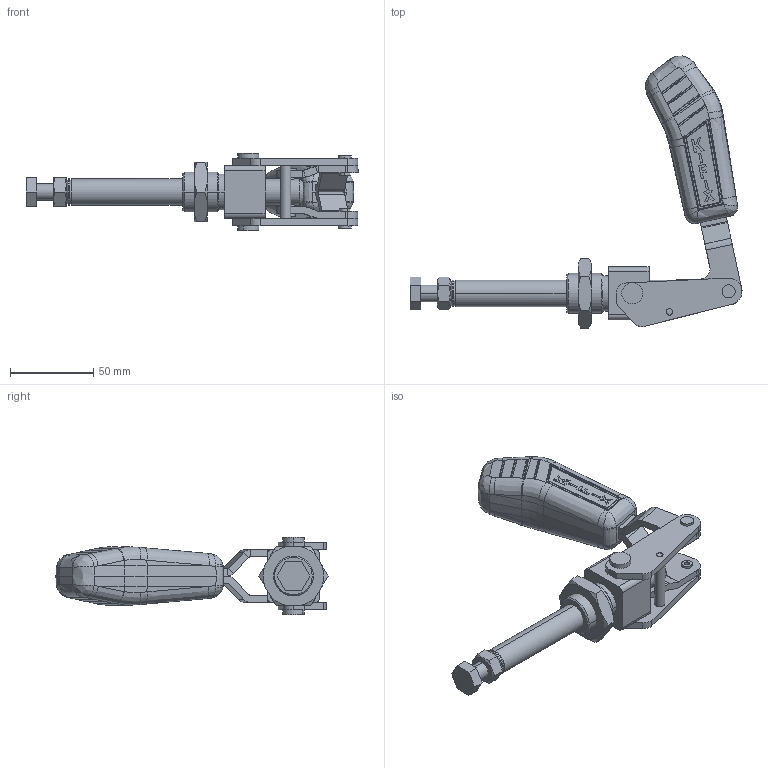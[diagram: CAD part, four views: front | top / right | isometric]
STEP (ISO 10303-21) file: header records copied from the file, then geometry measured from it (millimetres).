
FILE_DESCRIPTION (( 'STEP AP203' ), '1' );
FILE_NAME ('KF-035.STEP', '2014-08-26T18:10:13', ( 'Ricardo' ), ( '' ), 'SwSTEP 2.0', 'SolidWorks 2013', '' );
FILE_SCHEMA (( 'CONFIG_CONTROL_DESIGN' ));
Length unit declared in the file: millimetre
Products named in the file (15): 06.50034; 07.60002; 06.50021; 11.20006; 02.20004; 16.20061; 03.20034; 12.50021; 08.10037; 11.50003; 01.10075_Direita; PP-M10; 01.10075_Esquerda; KF-035; 16.20051
Assembly tree (17 placements, depth 3):
  KF-035
    02.20004
    03.20034
    08.10037  x2
    01.10075_Direita
    01.10075_Esquerda
    16.20051
    07.60002
    06.50034  x2
    06.50021
    11.20006
    16.20061  x2
    PP-M10
      12.50021
      11.50003
Bounding box: 199.37 x 163.4 x 46.25 mm (x, y, z)
Volume: 185318 mm3; surface area: 66321.4 mm2
Topology: 16 solids, 16 shells, 662 faces, 1649 edges, 1033 vertices
Faces by surface type: plane 228, cylinder 176, bspline 159, sphere 52, cone 44, torus 3
Entity records: 24590 total; most frequent: CARTESIAN_POINT 9447, ORIENTED_EDGE 3078, DIRECTION 2400, EDGE_CURVE 1539, VERTEX_POINT 972, AXIS2_PLACEMENT_3D 922, EDGE_LOOP 685, FACE_OUTER_BOUND 624
